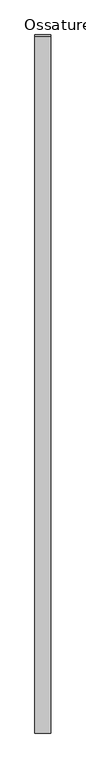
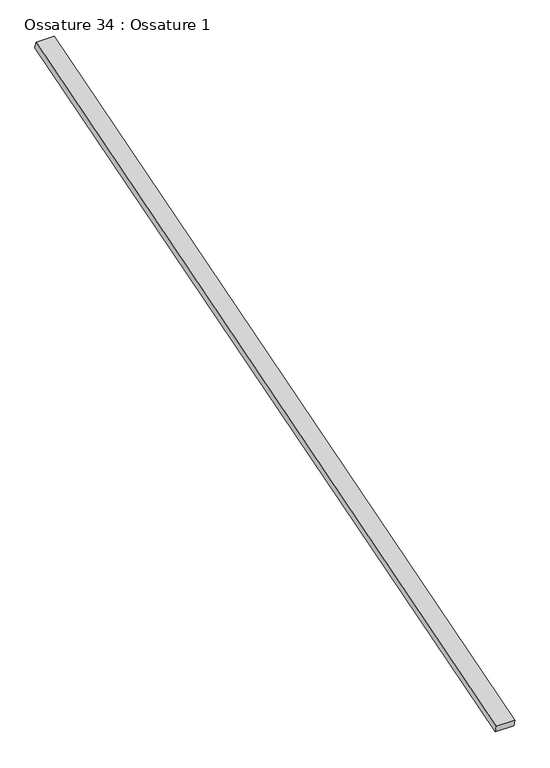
"""IFC4 building model written with IfcOpenShell, lengths in millimetres: beam geometry, Ossature 34 : Ossature 1."""

from ifc_helpers import new_model, si_unit, frame, origin, place, context, project, spatial, polyline, outline, extrude, source, transform, mapped, element, save


def ossature_34_ossature_1_83164b5e(model_context):
    return source(origin(), model_context, "Body", "SweptSolid", [
        extrude(outline(polyline([(0.0, 0.0), (0.0, -4543.0299679), (-100.0, -4543.0299679), (-100.0, 0.0), (0.0, 0.0)])), frame((8400.8466393, -833.3913565, 8153.6336115), z_axis=(0.0, -0.28734788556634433, 0.9578262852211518), x_axis=(-1.0, 0.0, 0.0)), (0.0, 0.0, 1.0), 40.0),
    ])


if __name__ == "__main__":
    model = new_model("IFC4")
    model_context = context("Model", 3, world=origin())
    ifc_project = project(units=[si_unit("LENGTHUNIT", "METRE", prefix="MILLI")], contexts=[model_context])
    site = spatial("IfcSite", under=ifc_project)
    building = spatial("IfcBuilding", under=site)
    placement = place(None, origin())
    ossature_34_ossature_1_shape = ossature_34_ossature_1_83164b5e(model_context)
    element("IfcBeam", 1, ObjectType="Ossature 34 : Ossature 1", at=placement, inside=building, context=model_context, shape_type="MappedRepresentation", body=[
        mapped(ossature_34_ossature_1_shape, transform((0.0, 0.0, 0.0), x_axis=(1.0, 0.0, 0.0), y_axis=(0.0, 1.0, 0.0), z_axis=(0.0, 0.0, 1.0))),
    ])
    save(model, "model.ifc")
